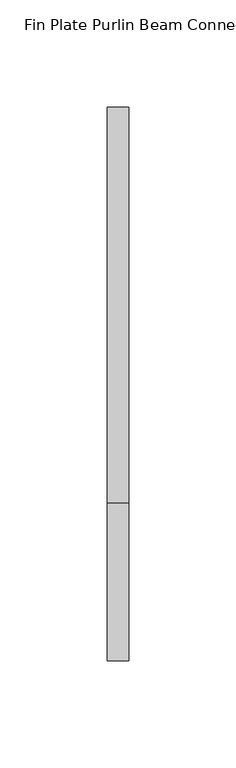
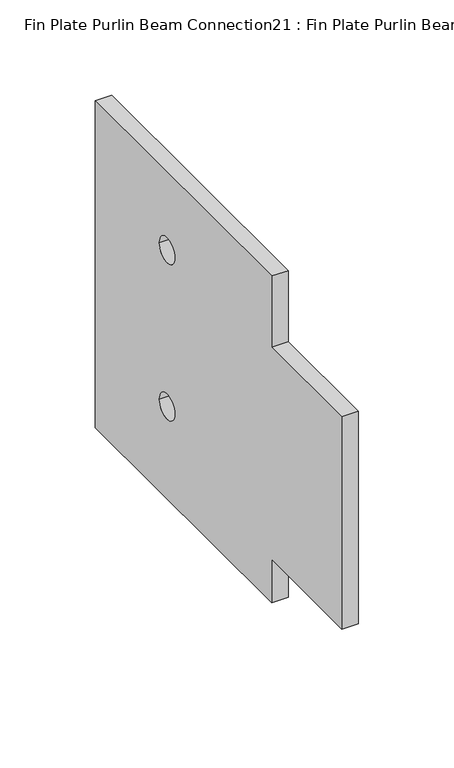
"""IFC4 building model written with IfcOpenShell, lengths in millimetres: proxy geometry, Fin Plate Purlin Beam Connection21 : Fin Plate Purlin Beam Connection."""

import ifcopenshell
import ifcopenshell.guid

model = None  # the IFC model being written
_history = None  # IfcOwnerHistory: only IFC2X3 demands one
_inside = {}  # id of a spatial element -> (the spatial element, [elements in it])
_under = {}  # id of a project, library or spatial element -> (it, [spatial elements below it])
_declared = {}  # id of a project -> (the project, [libraries it declares])
_typed = {}  # id of a type object -> (the type object, [elements of that type])
_made_of = {}  # id of a material, layer set ... -> (it, [elements and type objects made of it])


def new_model(schema):
    """Start an empty IFC model of exactly this schema.

    Asked for "IFC4X3", IfcOpenShell would pick the latest addendum, in which some entities
    have other attributes; the version numbers below select the first issue.
    IFC2X3 requires an IfcOwnerHistory on every rooted entity: one is made here for all.
    """
    global model, _history
    if schema == "IFC4X3":
        model = ifcopenshell.file(schema_version=(4, 3, 0, 0))
    else:
        model = ifcopenshell.file(schema=schema)
    _inside.clear()
    _under.clear()
    _declared.clear()
    _typed.clear()
    _made_of.clear()
    _history = None
    if model.schema == "IFC2X3":
        org = make("IfcOrganization", Name="unknown")
        user = make(
            "IfcPersonAndOrganization",
            ThePerson=make("IfcPerson", FamilyName="unknown"),
            TheOrganization=org,
        )
        app = make(
            "IfcApplication",
            ApplicationDeveloper=org,
            Version="unknown",
            ApplicationFullName="unknown",
            ApplicationIdentifier="unknown",
        )
        _history = make(
            "IfcOwnerHistory",
            OwningUser=user,
            OwningApplication=app,
            ChangeAction="ADDED",
            CreationDate=0,
        )
    return model


def make(cls, **values):
    """One entity of the class cls with the attributes given. An attribute that is None is left unset."""
    return model.create_entity(
        cls, **{name: value for name, value in values.items() if value is not None}
    )


def rooted(cls, **values):
    """An entity with a GlobalId (a new one), such as an element, a storey or a relation."""
    return make(cls, GlobalId=ifcopenshell.guid.new(), OwnerHistory=_history, **values)


def si_unit(unit_type, name, prefix=None):
    """IfcSIUnit, for example si_unit("LENGTHUNIT", "METRE", prefix="MILLI")."""
    return make("IfcSIUnit", UnitType=unit_type, Prefix=prefix, Name=name)


def assignment(units):
    """IfcUnitAssignment: the units of a project."""
    return None if units is None else make("IfcUnitAssignment", Units=units)


def point(xyz):
    """IfcCartesianPoint."""
    return None if xyz is None else make("IfcCartesianPoint", Coordinates=xyz)


def direction(xyz):
    """IfcDirection."""
    return None if xyz is None else make("IfcDirection", DirectionRatios=xyz)


def frame(location, z_axis=None, x_axis=None):
    """IfcAxis2Placement3D, a coordinate frame: its origin and axes. An axis left out is left unset."""
    return make(
        "IfcAxis2Placement3D",
        Location=point(location),
        Axis=direction(z_axis),
        RefDirection=direction(x_axis),
    )


def frame_2d(location, x_axis=None):
    """IfcAxis2Placement2D, a coordinate frame in the plane: its origin and x axis."""
    return make(
        "IfcAxis2Placement2D", Location=point(location), RefDirection=direction(x_axis)
    )


def origin():
    """The frame at (0, 0, 0) with its axes left unset."""
    return frame((0.0, 0.0, 0.0))


def place(relative_to, where):
    """IfcLocalPlacement: puts the frame where relative to a parent placement (None: the world)."""
    return make(
        "IfcLocalPlacement", PlacementRelTo=relative_to, RelativePlacement=where
    )


def context(
    kind, dimensions, precision=None, world=None, true_north=None, identifier=None
):
    """IfcGeometricRepresentationContext, for example the 3D "Model" context."""
    return make(
        "IfcGeometricRepresentationContext",
        ContextIdentifier=identifier,
        ContextType=kind,
        CoordinateSpaceDimension=dimensions,
        Precision=precision,
        WorldCoordinateSystem=world,
        TrueNorth=true_north,
    )


def project(units=None, contexts=None):
    """IfcProject with its units and contexts."""
    return rooted(
        "IfcProject",
        Name="project",
        RepresentationContexts=contexts,
        UnitsInContext=assignment(units),
    )


def spatial(cls, under=None, at=None, **own):
    """A site, building, storey or space (cls), placed at a placement, below another one or the project."""
    s = rooted(cls, ObjectPlacement=at, **own)
    if under is not None:
        _under.setdefault(under.id(), (under, []))[1].append(s)
    return s


def polyline(points):
    """IfcPolyline through the points."""
    return make("IfcPolyline", Points=[point(p) for p in points])


def circle_curve(where, radius):
    """IfcCircle in the frame where."""
    return make("IfcCircle", Position=where, Radius=radius)


def trimmed(basis, trim1, trim2, sense, master):
    """IfcTrimmedCurve: the piece of a basis curve between two trims."""
    return make(
        "IfcTrimmedCurve",
        BasisCurve=basis,
        Trim1=trim1,
        Trim2=trim2,
        SenseAgreement=sense,
        MasterRepresentation=master,
    )


def segment(curve, same_sense, transition):
    """IfcCompositeCurveSegment."""
    return make(
        "IfcCompositeCurveSegment",
        Transition=transition,
        SameSense=same_sense,
        ParentCurve=curve,
    )


def composite_curve(segments, self_intersect=None):
    """IfcCompositeCurve: segments joined end to end."""
    return make("IfcCompositeCurve", Segments=segments, SelfIntersect=self_intersect)


def outline(outer, holes=None, kind="AREA"):
    """IfcArbitraryClosedProfileDef: a profile drawn as a closed curve; with holes, ...WithVoids."""
    if holes is None:
        return make("IfcArbitraryClosedProfileDef", ProfileType=kind, OuterCurve=outer)
    return make(
        "IfcArbitraryProfileDefWithVoids",
        ProfileType=kind,
        OuterCurve=outer,
        InnerCurves=holes,
    )


def extrude(swept, where, along, depth):
    """IfcExtrudedAreaSolid: the profile swept, set in the frame where, extruded along a direction by depth."""
    return make(
        "IfcExtrudedAreaSolid",
        SweptArea=swept,
        Position=where,
        ExtrudedDirection=direction(along),
        Depth=depth,
    )


def shape(context_of_items, identifier, shape_type, items):
    """IfcShapeRepresentation: the items that make up one representation, for example the "Body"."""
    return make(
        "IfcShapeRepresentation",
        ContextOfItems=context_of_items,
        RepresentationIdentifier=identifier,
        RepresentationType=shape_type,
        Items=items,
    )


def source(mapping_origin, context_of_items, identifier, shape_type, items):
    """IfcRepresentationMap: a shape defined once, which mapped items show again and again."""
    return make(
        "IfcRepresentationMap",
        MappingOrigin=mapping_origin,
        MappedRepresentation=shape(context_of_items, identifier, shape_type, items),
    )


def transform(
    local_origin,
    x_axis=None,
    y_axis=None,
    z_axis=None,
    scale=None,
    scale2=None,
    scale3=None,
    uniform=True,
):
    """IfcCartesianTransformationOperator3D, or its non-uniform kind. x_axis, y_axis, z_axis: its Axis1, 2, 3."""
    if uniform:
        return make(
            "IfcCartesianTransformationOperator3D",
            Axis1=direction(x_axis),
            Axis2=direction(y_axis),
            LocalOrigin=point(local_origin),
            Scale=scale,
            Axis3=direction(z_axis),
        )
    return make(
        "IfcCartesianTransformationOperator3DnonUniform",
        Axis1=direction(x_axis),
        Axis2=direction(y_axis),
        LocalOrigin=point(local_origin),
        Scale=scale,
        Axis3=direction(z_axis),
        Scale2=scale2,
        Scale3=scale3,
    )


def mapped(mapping_source, mapping_target):
    """IfcMappedItem: shows the shape of a source again, moved by a transform."""
    return make(
        "IfcMappedItem", MappingSource=mapping_source, MappingTarget=mapping_target
    )


def made_of(thing, what):
    """Note that an element or type object is made of a material, layer set ...; save() writes the relation."""
    if what is not None:
        _made_of.setdefault(what.id(), (what, []))[1].append(thing)
    return thing


def element(
    cls,
    number,
    at=None,
    inside=None,
    cuts=None,
    type_object=None,
    material=None,
    context=None,
    identifier="Body",
    shape_type=None,
    held_by="IfcProductDefinitionShape",
    body=None,
    shapes=None,
    **own,
):
    """One element of the class cls, such as IfcWall. Its Tag is "e" and its number.

    at: its placement. inside: the storey or other place that contains it. cuts: it is an
    opening in that element (IfcRelVoidsElement). A single representation is given by context,
    identifier, shape_type and body (its items); several are given by shapes. held_by: the class
    of the entity that holds the representations. save() writes the other relations.
    """
    e = rooted(cls, Tag="e%d" % number, ObjectPlacement=at, **own)
    if body is not None:
        shapes = [shape(context, identifier, shape_type, body)]
    if shapes is not None:
        e.Representation = make(held_by, Representations=shapes)
    if inside is not None:
        _inside.setdefault(inside.id(), (inside, []))[1].append(e)
    if cuts is not None:
        rooted(
            "IfcRelVoidsElement", RelatingBuildingElement=cuts, RelatedOpeningElement=e
        )
    if type_object is not None:
        _typed.setdefault(type_object.id(), (type_object, []))[1].append(e)
    return made_of(e, material)


def aggregate(whole, parts):
    """IfcRelAggregates: a whole, such as a stair, and the parts it consists of."""
    return rooted("IfcRelAggregates", RelatingObject=whole, RelatedObjects=parts)


def save(model, path):
    """Write the relations noted so far, then the file.

    IfcRelAggregates (storeys below a building ...), IfcRelContainedInSpatialStructure (elements
    in a storey), IfcRelDefinesByType, IfcRelAssociatesMaterial and IfcRelDeclares: one each for
    every whole, place, type object, material and project.
    """
    for whole, parts in _under.values():
        aggregate(whole, parts)
    for where, things in _inside.values():
        rooted(
            "IfcRelContainedInSpatialStructure",
            RelatedElements=things,
            RelatingStructure=where,
        )
    for kind, things in _typed.values():
        rooted("IfcRelDefinesByType", RelatedObjects=things, RelatingType=kind)
    for what, things in _made_of.values():
        rooted("IfcRelAssociatesMaterial", RelatedObjects=things, RelatingMaterial=what)
    for by, libraries in _declared.values():
        rooted("IfcRelDeclares", RelatingContext=by, RelatedDefinitions=libraries)
    model.write(path)


def fin_plate_purlin_beam_connection21_fin_plate_purlin_beam_aa315e5e(model_context):
    return source(origin(), model_context, "Body", "SweptSolid", [
        extrude(outline(polyline([(15858.023117, 2454.7182916), (15858.023117, 2590.5), (15931.623117, 2590.5), (15931.623117, 2635.9566779), (16116.223117, 2635.9566779), (16116.223117, 2427.0006295), (15931.623117, 2427.0006295), (15931.623117, 2454.7182916), (15858.023117, 2454.7182916)]), holes=[composite_curve([segment(trimmed(circle_curve(frame_2d((16041.223117, 2585.9566779)), 8.0), [point((16033.223117, 2585.9566779))], [point((16049.223117, 2585.9566779))], True, "CARTESIAN"), True, "CONTINUOUS"), segment(trimmed(circle_curve(frame_2d((16041.223117, 2585.9566779)), 8.0), [point((16049.223117, 2585.9566779))], [point((16033.223117, 2585.9566779))], True, "CARTESIAN"), True, "CONTINUOUS")], self_intersect=False), composite_curve([segment(trimmed(circle_curve(frame_2d((16041.223117, 2485.9566779)), 8.0), [point((16033.223117, 2485.9566779))], [point((16049.223117, 2485.9566779))], True, "CARTESIAN"), True, "CONTINUOUS"), segment(trimmed(circle_curve(frame_2d((16041.223117, 2485.9566779)), 8.0), [point((16049.223117, 2485.9566779))], [point((16033.223117, 2485.9566779))], True, "CARTESIAN"), True, "CONTINUOUS")], self_intersect=False)]), frame((-29526.0036256, 0.0, 0.0), z_axis=(1.0, 0.0, 0.0), x_axis=(0.0, 1.0, 0.0)), (0.0, 0.0, 1.0), 10.0),
    ])


if __name__ == "__main__":
    model = new_model("IFC4")
    model_context = context("Model", 3, world=origin())
    ifc_project = project(units=[si_unit("LENGTHUNIT", "METRE", prefix="MILLI")], contexts=[model_context])
    site = spatial("IfcSite", under=ifc_project)
    building = spatial("IfcBuilding", under=site)
    placement = place(None, origin())
    fin_plate_purlin_beam_connection21_fin_plate_purlin_beam_shape = fin_plate_purlin_beam_connection21_fin_plate_purlin_beam_aa315e5e(model_context)
    element("IfcBuildingElementProxy", 1, Name="Fin Plate Purlin Beam Connection21 : Fin Plate Purlin Beam Connection", ObjectType="Fin Plate Purlin Beam Connection21 : Fin Plate Purlin Beam Connection", at=placement, inside=building, context=model_context, shape_type="MappedRepresentation", body=[
        mapped(fin_plate_purlin_beam_connection21_fin_plate_purlin_beam_shape, transform((0.0, 0.0, 0.0), x_axis=(1.0, 0.0, 0.0), y_axis=(0.0, 1.0, 0.0), z_axis=(0.0, 0.0, 1.0))),
    ])
    save(model, "model.ifc")
